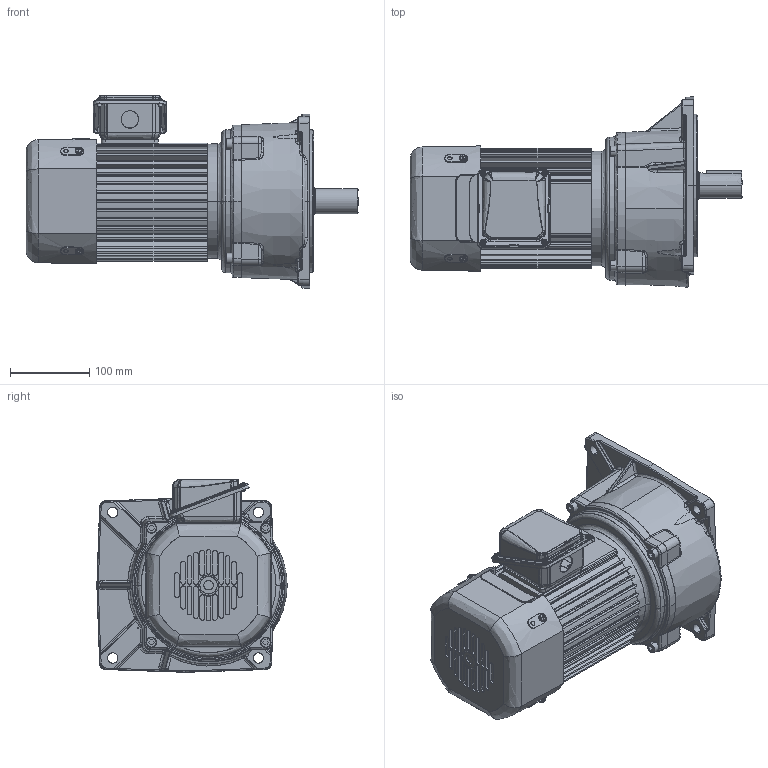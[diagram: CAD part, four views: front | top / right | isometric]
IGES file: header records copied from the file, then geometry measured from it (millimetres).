
Start section: SolidWorks IGES file using analytic representation for surfaces
Global section: file name: \\100.100.100.8\1_共有作業フォルダ\1-5_３Ｄデータ\solidworks\personal-folder\H.Nagayama\SGP1外形075~370\P1(3D)_075~370\igs\TMFB2-07-(30~80).IGS; native system: SolidWorks 2018; preprocessor: SolidWorks 2018; author: sigma-giken; date: 200806.160745; units: millimetre
Bounding box: 419 x 240.19 x 243.2 mm (x, y, z)
Surface area: 587693.6 mm2 (no closed solid volume)
Topology: 0 solids, 0 shells, 1604 faces, 19645 edges, 19615 vertices
Faces by surface type: bspline 818, revolution 786
